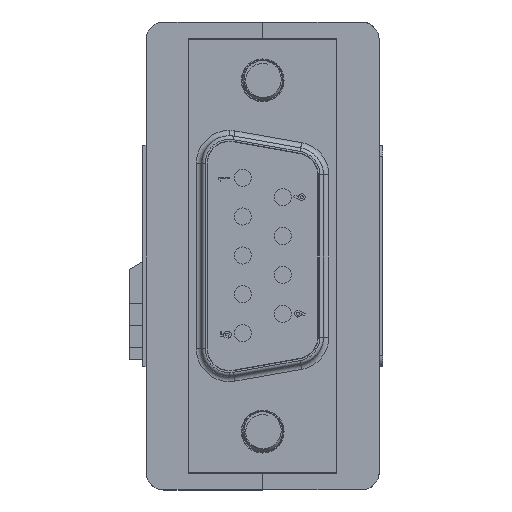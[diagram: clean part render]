
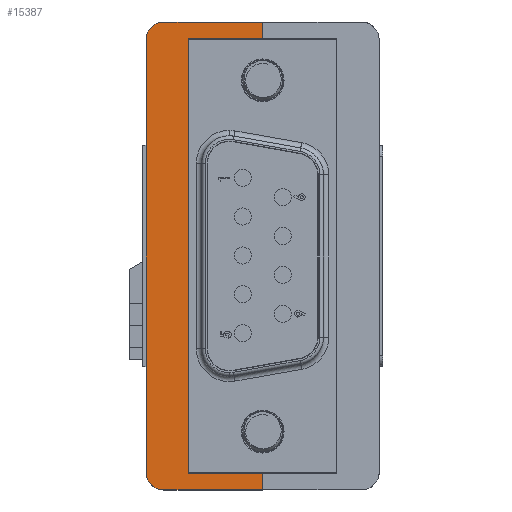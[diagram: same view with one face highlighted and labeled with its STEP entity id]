
A CAD part, left-side view. The second image highlights one B-rep face of the part: STEP entity #15387.
In plain terms, the highlighted planar face has unit normal (-1, 0, 0) as drawn and (0, -1, 0) by its records, which use the part's own axes.
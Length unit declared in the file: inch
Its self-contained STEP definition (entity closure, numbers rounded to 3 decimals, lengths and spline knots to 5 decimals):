
#1017 = CARTESIAN_POINT ( 'NONE',  ( -0.6555, 0., 0.3265 ) ) ;
#1735 = CARTESIAN_POINT ( 'NONE',  ( -0.6555, 0., 0. ) ) ;
#2039 = AXIS2_PLACEMENT_3D ( 'NONE', #40494, #19897, #43993 ) ;
#2047 = DIRECTION ( 'NONE',  ( 0., 0., -1. ) ) ;
#2606 = EDGE_CURVE ( 'NONE', #24824, #28638, #37745, .T. ) ;
#3104 = ORIENTED_EDGE ( 'NONE', *, *, #25229, .F. ) ;
#3421 = LINE ( 'NONE', #27500, #29603 ) ;
#3705 = LINE ( 'NONE', #1017, #38043 ) ;
#3855 = DIRECTION ( 'NONE',  ( 0., 0., 1. ) ) ;
#5012 = EDGE_LOOP ( 'NONE', ( #38604, #16348, #40356, #28479, #33542, #39403, #7169, #7704, #34542, #3104 ) ) ;
#5014 = EDGE_CURVE ( 'NONE', #28638, #30123, #13774, .T. ) ;
#5525 = CARTESIAN_POINT ( 'NONE',  ( 0.6555, 0., 0.05 ) ) ;
#5626 = LINE ( 'NONE', #28502, #14744 ) ;
#6541 = CARTESIAN_POINT ( 'NONE',  ( -0.61, 0., 0.64154 ) ) ;
#7169 = ORIENTED_EDGE ( 'NONE', *, *, #27907, .T. ) ;
#7704 = ORIENTED_EDGE ( 'NONE', *, *, #11276, .T. ) ;
#7967 = LINE ( 'NONE', #6541, #15963 ) ;
#10461 = CARTESIAN_POINT ( 'NONE',  ( 0.6555, 0., 0.3265 ) ) ;
#10557 = DIRECTION ( 'NONE',  ( 0., 0., -1. ) ) ;
#11259 = DIRECTION ( 'NONE',  ( 1., 0., 0. ) ) ;
#11276 = EDGE_CURVE ( 'NONE', #19623, #18945, #25481, .T. ) ;
#12057 = CARTESIAN_POINT ( 'NONE',  ( -0.6555, 0., 0. ) ) ;
#12199 = CARTESIAN_POINT ( 'NONE',  ( 0.61, 0., 0.12 ) ) ;
#13774 = CIRCLE ( 'NONE', #2039, 0.05 ) ;
#14527 = DIRECTION ( 'NONE',  ( 0., -1., 0. ) ) ;
#14593 = CARTESIAN_POINT ( 'NONE',  ( -0.6555, 0., 0.05 ) ) ;
#14744 = VECTOR ( 'NONE', #11259, 39.37008 ) ;
#15175 = EDGE_CURVE ( 'NONE', #30123, #17726, #42007, .T. ) ;
#15387 = ADVANCED_FACE ( 'NONE', ( #30080 ), #25799, .T. ) ;
#15943 = CARTESIAN_POINT ( 'NONE',  ( 0.61, 0., 0.3265 ) ) ;
#15963 = VECTOR ( 'NONE', #40687, 39.37008 ) ;
#16348 = ORIENTED_EDGE ( 'NONE', *, *, #26545, .T. ) ;
#17517 = CARTESIAN_POINT ( 'NONE',  ( -0.6555, 0., 0.3265 ) ) ;
#17726 = VERTEX_POINT ( 'NONE', #10461 ) ;
#17997 = AXIS2_PLACEMENT_3D ( 'NONE', #35054, #14527, #38505 ) ;
#18220 = VERTEX_POINT ( 'NONE', #17517 ) ;
#18945 = VERTEX_POINT ( 'NONE', #32410 ) ;
#19068 = CARTESIAN_POINT ( 'NONE',  ( -0.6555, 0., 0. ) ) ;
#19249 = CARTESIAN_POINT ( 'NONE',  ( 0.6055, 0., 0. ) ) ;
#19264 = EDGE_CURVE ( 'NONE', #29512, #18945, #7967, .T. ) ;
#19417 = VERTEX_POINT ( 'NONE', #14593 ) ;
#19623 = VERTEX_POINT ( 'NONE', #12199 ) ;
#19897 = DIRECTION ( 'NONE',  ( 0., -1., 0. ) ) ;
#20468 = EDGE_CURVE ( 'NONE', #29170, #17726, #5626, .T. ) ;
#22453 = DIRECTION ( 'NONE',  ( 0., -1., 0. ) ) ;
#23345 = CARTESIAN_POINT ( 'NONE',  ( 0.61, 0., 0.12 ) ) ;
#24824 = VERTEX_POINT ( 'NONE', #39220 ) ;
#25229 = EDGE_CURVE ( 'NONE', #18220, #29512, #3705, .T. ) ;
#25481 = LINE ( 'NONE', #23345, #43808 ) ;
#25799 = PLANE ( 'NONE',  #34214 ) ;
#26545 = EDGE_CURVE ( 'NONE', #19417, #24824, #30298, .T. ) ;
#26802 = DIRECTION ( 'NONE',  ( -1., 0., 0. ) ) ;
#27125 = EDGE_CURVE ( 'NONE', #19417, #18220, #44368, .T. ) ;
#27500 = CARTESIAN_POINT ( 'NONE',  ( 0.61, 0., 0.64154 ) ) ;
#27907 = EDGE_CURVE ( 'NONE', #29170, #19623, #3421, .T. ) ;
#28479 = ORIENTED_EDGE ( 'NONE', *, *, #5014, .T. ) ;
#28502 = CARTESIAN_POINT ( 'NONE',  ( -0.6555, 0., 0.3265 ) ) ;
#28638 = VERTEX_POINT ( 'NONE', #19249 ) ;
#29170 = VERTEX_POINT ( 'NONE', #15943 ) ;
#29321 = CARTESIAN_POINT ( 'NONE',  ( -0.61, 0., 0.3265 ) ) ;
#29512 = VERTEX_POINT ( 'NONE', #29321 ) ;
#29603 = VECTOR ( 'NONE', #10557, 39.37008 ) ;
#30080 = FACE_OUTER_BOUND ( 'NONE', #5012, .T. ) ;
#30123 = VERTEX_POINT ( 'NONE', #5525 ) ;
#30298 = CIRCLE ( 'NONE', #17997, 0.05 ) ;
#32410 = CARTESIAN_POINT ( 'NONE',  ( -0.61, 0., 0.12 ) ) ;
#32825 = VECTOR ( 'NONE', #3855, 39.37008 ) ;
#33542 = ORIENTED_EDGE ( 'NONE', *, *, #15175, .T. ) ;
#34214 = AXIS2_PLACEMENT_3D ( 'NONE', #19068, #22453, #2047 ) ;
#34542 = ORIENTED_EDGE ( 'NONE', *, *, #19264, .F. ) ;
#35054 = CARTESIAN_POINT ( 'NONE',  ( -0.6055, 0., 0.05 ) ) ;
#35216 = VECTOR ( 'NONE', #42953, 39.37008 ) ;
#36650 = VECTOR ( 'NONE', #43259, 39.37008 ) ;
#37745 = LINE ( 'NONE', #12057, #36650 ) ;
#37900 = CARTESIAN_POINT ( 'NONE',  ( 0.6555, 0., 0. ) ) ;
#38043 = VECTOR ( 'NONE', #38766, 39.37008 ) ;
#38505 = DIRECTION ( 'NONE',  ( 0., 0., -1. ) ) ;
#38604 = ORIENTED_EDGE ( 'NONE', *, *, #27125, .F. ) ;
#38766 = DIRECTION ( 'NONE',  ( 1., 0., 0. ) ) ;
#39220 = CARTESIAN_POINT ( 'NONE',  ( -0.6055, 0., 0. ) ) ;
#39403 = ORIENTED_EDGE ( 'NONE', *, *, #20468, .F. ) ;
#40356 = ORIENTED_EDGE ( 'NONE', *, *, #2606, .T. ) ;
#40494 = CARTESIAN_POINT ( 'NONE',  ( 0.6055, 0., 0.05 ) ) ;
#40687 = DIRECTION ( 'NONE',  ( 0., 0., -1. ) ) ;
#42007 = LINE ( 'NONE', #37900, #32825 ) ;
#42953 = DIRECTION ( 'NONE',  ( 0., 0., 1. ) ) ;
#43259 = DIRECTION ( 'NONE',  ( 1., 0., 0. ) ) ;
#43808 = VECTOR ( 'NONE', #26802, 39.37008 ) ;
#43993 = DIRECTION ( 'NONE',  ( 0., 0., -1. ) ) ;
#44368 = LINE ( 'NONE', #1735, #35216 ) ;
